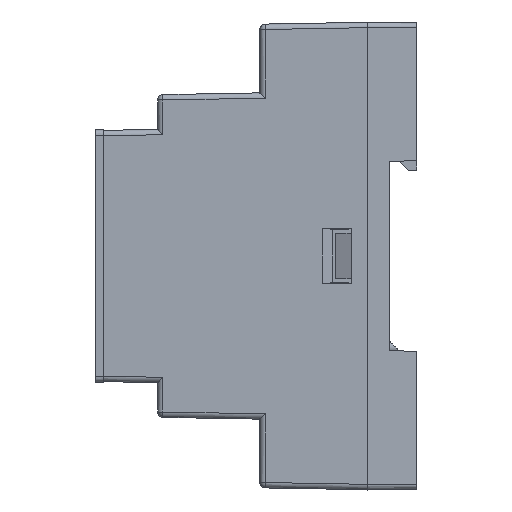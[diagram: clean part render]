
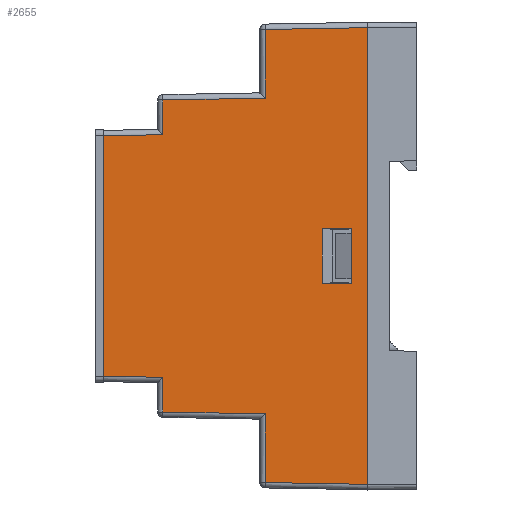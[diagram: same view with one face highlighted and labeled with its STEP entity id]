
A CAD part, left-side view. The second image highlights one B-rep face of the part: STEP entity #2655.
In plain terms, the highlighted planar face has unit normal (-1, 0.009, 0).
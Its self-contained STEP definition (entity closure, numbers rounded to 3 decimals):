
#62 = LINE ( 'NONE', #5704, #16315 ) ;
#473 = VERTEX_POINT ( 'NONE', #7592 ) ;
#515 = EDGE_CURVE ( 'NONE', #759, #6320, #15483, .T. ) ;
#652 = VERTEX_POINT ( 'NONE', #11588 ) ;
#759 = VERTEX_POINT ( 'NONE', #13176 ) ;
#1202 = EDGE_CURVE ( 'NONE', #5681, #6077, #5472, .T. ) ;
#1257 = DIRECTION ( 'NONE',  ( 0., 0., -1. ) ) ;
#1268 = DIRECTION ( 'NONE',  ( 0., 0., -1. ) ) ;
#1277 = DIRECTION ( 'NONE',  ( -0.009, -1., -0.017 ) ) ;
#1300 = VECTOR ( 'NONE', #2756, 1000. ) ;
#1365 = VECTOR ( 'NONE', #11037, 1000. ) ;
#1449 = FACE_BOUND ( 'NONE', #14001, .T. ) ;
#1482 = CARTESIAN_POINT ( 'NONE',  ( -78.985, 18.909, -29.167 ) ) ;
#1567 = EDGE_LOOP ( 'NONE', ( #14124, #14716, #16359, #1696, #5535, #2088, #15798, #7413, #14436, #8654, #16663, #18288 ) ) ;
#1696 = ORIENTED_EDGE ( 'NONE', *, *, #6490, .T. ) ;
#1824 = CARTESIAN_POINT ( 'NONE',  ( -79.15, 0., 43.2 ) ) ;
#1996 = VERTEX_POINT ( 'NONE', #14790 ) ;
#2088 = ORIENTED_EDGE ( 'NONE', *, *, #1202, .T. ) ;
#2097 = VECTOR ( 'NONE', #11087, 1000. ) ;
#2116 = CARTESIAN_POINT ( 'NONE',  ( -79.125, 2.9, 5. ) ) ;
#2125 = DIRECTION ( 'NONE',  ( 0., 0., -1. ) ) ;
#2344 = DIRECTION ( 'NONE',  ( -0.009, -1., -0.017 ) ) ;
#2386 = VERTEX_POINT ( 'NONE', #2116 ) ;
#2579 = LINE ( 'NONE', #12332, #6666 ) ;
#2655 = ADVANCED_FACE ( 'NONE', ( #1449, #4498 ), #17040, .T. ) ;
#2756 = DIRECTION ( 'NONE',  ( -0.009, -1., -0.017 ) ) ;
#2918 = CARTESIAN_POINT ( 'NONE',  ( -78.82, 37.809, 43.2 ) ) ;
#2922 = LINE ( 'NONE', #5785, #5168 ) ;
#3035 = CARTESIAN_POINT ( 'NONE',  ( -79.125, 2.9, -5. ) ) ;
#3431 = VERTEX_POINT ( 'NONE', #7236 ) ;
#3544 = VECTOR ( 'NONE', #15503, 1000. ) ;
#3714 = EDGE_CURVE ( 'NONE', #2386, #14417, #14947, .T. ) ;
#3861 = LINE ( 'NONE', #12515, #16763 ) ;
#4138 = CARTESIAN_POINT ( 'NONE',  ( -79.15, -0.017, 42.2 ) ) ;
#4485 = DIRECTION ( 'NONE',  ( 0., 0., -1. ) ) ;
#4498 = FACE_OUTER_BOUND ( 'NONE', #1567, .T. ) ;
#4628 = VERTEX_POINT ( 'NONE', #13115 ) ;
#4879 = CARTESIAN_POINT ( 'NONE',  ( -79.152, -0.239, 29.502 ) ) ;
#4886 = CARTESIAN_POINT ( 'NONE',  ( -79.15, 0., -5. ) ) ;
#5168 = VECTOR ( 'NONE', #1257, 1000. ) ;
#5211 = EDGE_CURVE ( 'NONE', #3431, #1996, #16138, .T. ) ;
#5275 = EDGE_CURVE ( 'NONE', #759, #6379, #3861, .T. ) ;
#5472 = LINE ( 'NONE', #14042, #10949 ) ;
#5535 = ORIENTED_EDGE ( 'NONE', *, *, #5839, .T. ) ;
#5681 = VERTEX_POINT ( 'NONE', #12127 ) ;
#5704 = CARTESIAN_POINT ( 'NONE',  ( -79.153, -0.351, 23.083 ) ) ;
#5737 = LINE ( 'NONE', #16891, #3544 ) ;
#5785 = CARTESIAN_POINT ( 'NONE',  ( -78.985, 18.909, 43.2 ) ) ;
#5839 = EDGE_CURVE ( 'NONE', #11493, #5681, #2922, .T. ) ;
#5895 = DIRECTION ( 'NONE',  ( -0.009, -1., 0. ) ) ;
#6077 = VERTEX_POINT ( 'NONE', #6600 ) ;
#6096 = VECTOR ( 'NONE', #10574, 1000. ) ;
#6320 = VERTEX_POINT ( 'NONE', #13647 ) ;
#6379 = VERTEX_POINT ( 'NONE', #17193 ) ;
#6490 = EDGE_CURVE ( 'NONE', #12372, #11493, #2579, .T. ) ;
#6600 = CARTESIAN_POINT ( 'NONE',  ( -79.15, 0., -42.2 ) ) ;
#6666 = VECTOR ( 'NONE', #1277, 1000. ) ;
#6711 = CARTESIAN_POINT ( 'NONE',  ( -78.985, 18.909, 43.2 ) ) ;
#6905 = VECTOR ( 'NONE', #4485, 1000. ) ;
#7236 = CARTESIAN_POINT ( 'NONE',  ( -78.985, 18.909, 29.167 ) ) ;
#7356 = AXIS2_PLACEMENT_3D ( 'NONE', #1824, #10356, #5895 ) ;
#7413 = ORIENTED_EDGE ( 'NONE', *, *, #15475, .T. ) ;
#7592 = CARTESIAN_POINT ( 'NONE',  ( -78.82, 37.809, 22.417 ) ) ;
#7920 = EDGE_CURVE ( 'NONE', #14768, #4628, #5737, .T. ) ;
#8060 = CARTESIAN_POINT ( 'NONE',  ( -79.125, 2.9, 43.2 ) ) ;
#8321 = LINE ( 'NONE', #12323, #16607 ) ;
#8654 = ORIENTED_EDGE ( 'NONE', *, *, #5211, .T. ) ;
#9187 = LINE ( 'NONE', #14848, #15312 ) ;
#9314 = EDGE_CURVE ( 'NONE', #652, #3431, #15085, .T. ) ;
#9330 = VECTOR ( 'NONE', #15958, 1000. ) ;
#10068 = ORIENTED_EDGE ( 'NONE', *, *, #12857, .T. ) ;
#10112 = DIRECTION ( 'NONE',  ( 0.009, 1., -0.017 ) ) ;
#10356 = DIRECTION ( 'NONE',  ( -1., 0.009, 0. ) ) ;
#10574 = DIRECTION ( 'NONE',  ( 0.009, 1., -0.017 ) ) ;
#10949 = VECTOR ( 'NONE', #2344, 1000. ) ;
#11037 = DIRECTION ( 'NONE',  ( 0., 0., -1. ) ) ;
#11087 = DIRECTION ( 'NONE',  ( 0., 0., -1. ) ) ;
#11348 = VECTOR ( 'NONE', #13469, 1000. ) ;
#11455 = ORIENTED_EDGE ( 'NONE', *, *, #3714, .T. ) ;
#11493 = VERTEX_POINT ( 'NONE', #1482 ) ;
#11588 = CARTESIAN_POINT ( 'NONE',  ( -78.985, 18.909, 41.87 ) ) ;
#11804 = EDGE_CURVE ( 'NONE', #15800, #6077, #9187, .T. ) ;
#11967 = CARTESIAN_POINT ( 'NONE',  ( -79.15, 0., 5. ) ) ;
#12127 = CARTESIAN_POINT ( 'NONE',  ( -78.985, 18.909, -41.87 ) ) ;
#12242 = CARTESIAN_POINT ( 'NONE',  ( -79.14, 1.156, -23.057 ) ) ;
#12323 = CARTESIAN_POINT ( 'NONE',  ( -78.82, 37.809, 43.2 ) ) ;
#12332 = CARTESIAN_POINT ( 'NONE',  ( -79.139, 1.268, -29.475 ) ) ;
#12372 = VERTEX_POINT ( 'NONE', #17307 ) ;
#12427 = VECTOR ( 'NONE', #10112, 1000. ) ;
#12515 = CARTESIAN_POINT ( 'NONE',  ( -78.724, 48.8, 23.225 ) ) ;
#12857 = EDGE_CURVE ( 'NONE', #14417, #14768, #17623, .T. ) ;
#13115 = CARTESIAN_POINT ( 'NONE',  ( -79.077, 8.4, 5. ) ) ;
#13176 = CARTESIAN_POINT ( 'NONE',  ( -78.724, 48.8, -22.225 ) ) ;
#13213 = EDGE_CURVE ( 'NONE', #1996, #473, #15642, .T. ) ;
#13469 = DIRECTION ( 'NONE',  ( 0.009, 1., 0. ) ) ;
#13647 = CARTESIAN_POINT ( 'NONE',  ( -78.82, 37.809, -22.417 ) ) ;
#14001 = EDGE_LOOP ( 'NONE', ( #17748, #14263, #11455, #10068 ) ) ;
#14042 = CARTESIAN_POINT ( 'NONE',  ( -79.137, 1.49, -42.174 ) ) ;
#14067 = EDGE_CURVE ( 'NONE', #4628, #2386, #16140, .T. ) ;
#14090 = DIRECTION ( 'NONE',  ( 0.009, 1., -0.017 ) ) ;
#14124 = ORIENTED_EDGE ( 'NONE', *, *, #5275, .F. ) ;
#14263 = ORIENTED_EDGE ( 'NONE', *, *, #14067, .T. ) ;
#14271 = CARTESIAN_POINT ( 'NONE',  ( -79.15, 0., 42.2 ) ) ;
#14417 = VERTEX_POINT ( 'NONE', #3035 ) ;
#14436 = ORIENTED_EDGE ( 'NONE', *, *, #9314, .T. ) ;
#14716 = ORIENTED_EDGE ( 'NONE', *, *, #515, .T. ) ;
#14768 = VERTEX_POINT ( 'NONE', #17195 ) ;
#14790 = CARTESIAN_POINT ( 'NONE',  ( -78.82, 37.809, 28.837 ) ) ;
#14848 = CARTESIAN_POINT ( 'NONE',  ( -79.15, 0., 43.2 ) ) ;
#14947 = LINE ( 'NONE', #8060, #1365 ) ;
#15018 = DIRECTION ( 'NONE',  ( 0., 0., 1. ) ) ;
#15085 = LINE ( 'NONE', #6711, #2097 ) ;
#15312 = VECTOR ( 'NONE', #2125, 1000. ) ;
#15475 = EDGE_CURVE ( 'NONE', #15800, #652, #15573, .T. ) ;
#15483 = LINE ( 'NONE', #12242, #1300 ) ;
#15503 = DIRECTION ( 'NONE',  ( 0., 0., 1. ) ) ;
#15573 = LINE ( 'NONE', #4138, #12427 ) ;
#15642 = LINE ( 'NONE', #2918, #6905 ) ;
#15798 = ORIENTED_EDGE ( 'NONE', *, *, #11804, .F. ) ;
#15800 = VERTEX_POINT ( 'NONE', #14271 ) ;
#15958 = DIRECTION ( 'NONE',  ( -0.009, -1., 0. ) ) ;
#16138 = LINE ( 'NONE', #4879, #6096 ) ;
#16140 = LINE ( 'NONE', #11967, #9330 ) ;
#16315 = VECTOR ( 'NONE', #14090, 1000. ) ;
#16359 = ORIENTED_EDGE ( 'NONE', *, *, #17018, .T. ) ;
#16607 = VECTOR ( 'NONE', #1268, 1000. ) ;
#16663 = ORIENTED_EDGE ( 'NONE', *, *, #13213, .T. ) ;
#16763 = VECTOR ( 'NONE', #15018, 1000. ) ;
#16891 = CARTESIAN_POINT ( 'NONE',  ( -79.077, 8.4, 43.2 ) ) ;
#17018 = EDGE_CURVE ( 'NONE', #6320, #12372, #8321, .T. ) ;
#17040 = PLANE ( 'NONE',  #7356 ) ;
#17193 = CARTESIAN_POINT ( 'NONE',  ( -78.724, 48.8, 22.225 ) ) ;
#17195 = CARTESIAN_POINT ( 'NONE',  ( -79.077, 8.4, -5. ) ) ;
#17307 = CARTESIAN_POINT ( 'NONE',  ( -78.82, 37.809, -28.837 ) ) ;
#17623 = LINE ( 'NONE', #4886, #11348 ) ;
#17748 = ORIENTED_EDGE ( 'NONE', *, *, #7920, .T. ) ;
#18270 = EDGE_CURVE ( 'NONE', #473, #6379, #62, .T. ) ;
#18288 = ORIENTED_EDGE ( 'NONE', *, *, #18270, .T. ) ;
